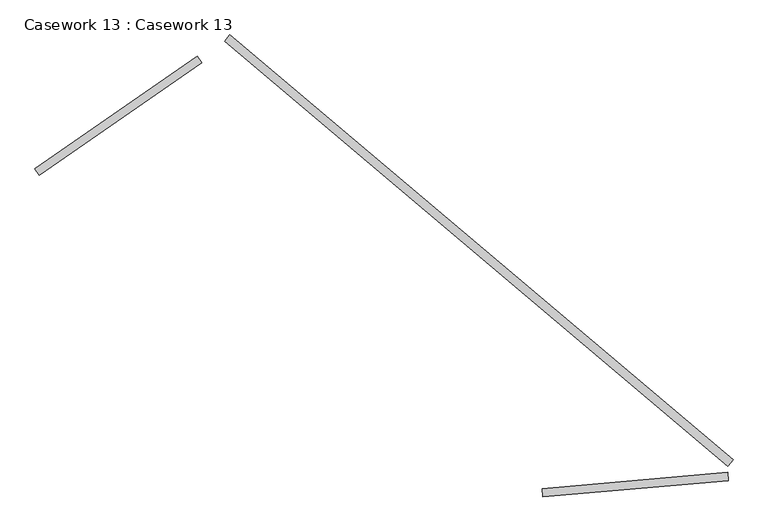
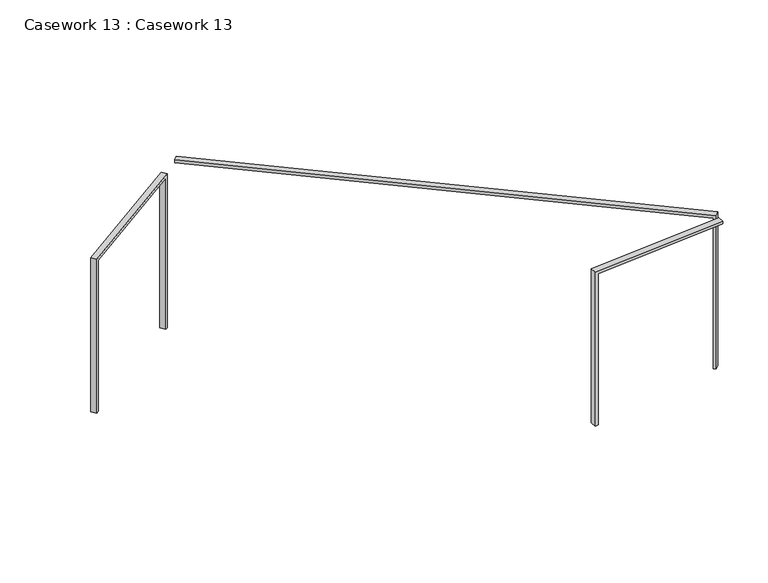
"""IFC4 building model written with IfcOpenShell, lengths in millimetres: furniture geometry, Casework 13 : Casework 13."""

from ifc_helpers import new_model, si_unit, frame, origin, place, context, project, spatial, polyline, outline, extrude, source, transform, mapped, element, save


def casework_13_casework_13_cae8e3e0(model_context):
    return source(origin(), model_context, "Body", "SweptSolid", [
        extrude(outline(polyline([(2270.0, 0.0), (2270.0, -50.0), (-50.0, -50.0), (-50.0, 2750.0), (0.0, 2750.0), (0.0, 0.0), (2270.0, 0.0)])), frame((2007.2853524, 3520.3314825, 2900.0), z_axis=(-0.08715574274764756, 0.9961946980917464, 0.0), x_axis=(0.9961946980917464, 0.08715574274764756, 0.0)), (0.0, 0.0, 1.0), 103.0014504),
        extrude(outline(polyline([(-8153.1510632, 0.0), (0.0, 0.0), (0.0, 2738.6870285), (50.0, 2738.6870285), (50.0, -50.0), (-8153.1510632, -50.0), (-8153.1510632, 0.0)])), frame((4224.0497735, 3931.204923, 2888.6870285), z_axis=(0.6453696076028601, 0.7638704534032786, 0.0), x_axis=(0.7638704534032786, -0.6453696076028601, 0.0)), (0.0, 0.0, 1.0), 100.0),
        extrude(outline(polyline([(-2360.0, 0.0), (0.0, 0.0), (0.0, 2750.0), (50.0, 2750.0), (50.0, -50.0), (-2410.0, -50.0), (-2410.0, 2750.0), (-2360.0, 2750.0), (-2360.0, 0.0)])), frame((-2329.925896, 8893.9516168, 2900.0), z_axis=(-0.5689311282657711, 0.8223851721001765, 0.0), x_axis=(0.8223851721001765, 0.5689311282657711, 0.0)), (0.0, 0.0, 1.0), 100.0),
    ])


if __name__ == "__main__":
    model = new_model("IFC4")
    model_context = context("Model", 3, world=origin())
    ifc_project = project(units=[si_unit("LENGTHUNIT", "METRE", prefix="MILLI")], contexts=[model_context])
    site = spatial("IfcSite", under=ifc_project)
    building = spatial("IfcBuilding", under=site)
    placement = place(None, origin())
    casework_13_casework_13_shape = casework_13_casework_13_cae8e3e0(model_context)
    element("IfcFurniture", 1, ObjectType="Casework 13 : Casework 13", at=placement, inside=building, context=model_context, shape_type="MappedRepresentation", body=[
        mapped(casework_13_casework_13_shape, transform((0.0, 0.0, 0.0), x_axis=(1.0, 0.0, 0.0), y_axis=(0.0, 1.0, 0.0), z_axis=(0.0, 0.0, 1.0))),
    ])
    save(model, "model.ifc")
